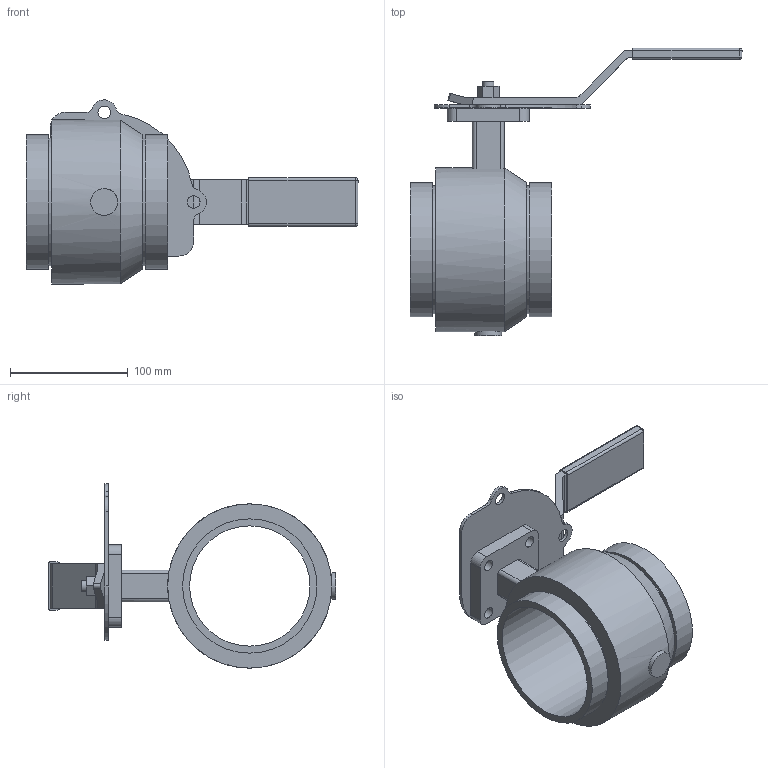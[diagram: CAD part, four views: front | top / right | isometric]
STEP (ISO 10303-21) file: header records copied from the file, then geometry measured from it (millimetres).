
FILE_DESCRIPTION(/* description */ ('VIC STRENGTHIN 300 MASTERSEAL BUTTERFLY VALVE E461 w/LH','CAx-IF Rec.Pracs.---Representation and Presentation of Product Manufacturing Information (PMI)---4.0---2014-10-13'),/* implementation_level */ '2;1');
FILE_NAME(/* name */ 'C:\Users\Vjadhav\AppData\Roaming\Autodesk\ApplicationPlugins\Back Up\Victaulic_SS-StrengThin 100_Valve Butterfly Lever Handle_Series E461 (ST1)\Victaulic_SS-StrengThin 100_Valve Butterfly Lever Handle_4 (100).stp',/* time_stamp */ '2020-07-07T16:33:49+05:00',/* author */ ('jbrannon'),/* organization */ ('Victaulic'),/* preprocessor_version */ 'ST-DEVELOPER v17.2',/* originating_system */ 'Autodesk Inventor 2019',/* authorisation */ '');
FILE_SCHEMA (('AP242_MANAGED_MODEL_BASED_3D_ENGINEERING_MIM_LF { 1 0 10303 442 1 1 4 }'));
Length unit declared in the file: inch
Products named in the file (4): E461-04.0; E461-04.0_1; E461-02.0; E461-04.0_2
Assembly tree (3 placements, depth 2):
  E461-04.0
    E461-04.0_1
    E461-02.0
    E461-04.0_2
Bounding box: 282.44 x 244.6 x 156.71 mm (x, y, z)
Volume: 765339.4 mm3; surface area: 172222.3 mm2
Topology: 3 solids, 3 shells, 107 faces, 273 edges, 181 vertices
Faces by surface type: cylinder 52, plane 50, sphere 4, cone 1
Full cylindrical faces by diameter (mm): 9.652 x10, 10.668 x2, 18.288 x1, 22.86 x1, 54.102 x1, 102.394 x1, 108.839 x2, 114.3 x2, 139.7 x1
Entity records: 3675 total; most frequent: CARTESIAN_POINT 639, DIRECTION 609, ORIENTED_EDGE 546, EDGE_CURVE 273, AXIS2_PLACEMENT_3D 229, VERTEX_POINT 181, LINE 151, VECTOR 151
